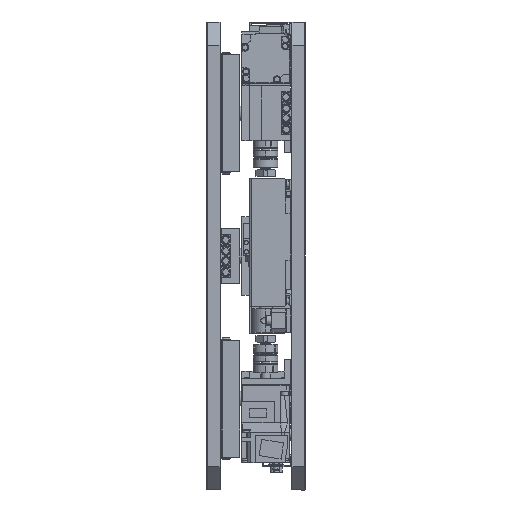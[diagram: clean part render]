
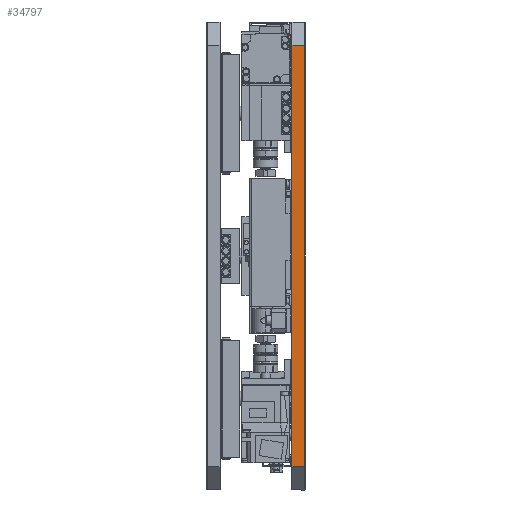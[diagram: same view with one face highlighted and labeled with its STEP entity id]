
A CAD part, left-side view. The second image highlights one B-rep face of the part: STEP entity #34797.
In plain terms, the highlighted planar face has unit normal (-1, 0, 0).
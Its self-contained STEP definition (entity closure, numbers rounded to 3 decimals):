
#3355 = EDGE_CURVE ( 'NONE', #101950, #88042, #51039, .T. ) ;
#6871 = ORIENTED_EDGE ( 'NONE', *, *, #74104, .T. ) ;
#7644 = VECTOR ( 'NONE', #50463, 1000. ) ;
#11614 = EDGE_CURVE ( 'NONE', #51528, #44199, #65723, .T. ) ;
#19537 = VECTOR ( 'NONE', #76028, 1000. ) ;
#21331 = AXIS2_PLACEMENT_3D ( 'NONE', #96385, #44040, #61907 ) ;
#23691 = CARTESIAN_POINT ( 'NONE',  ( -200., -0.5, -180. ) ) ;
#31579 = EDGE_CURVE ( 'NONE', #88042, #51528, #86739, .T. ) ;
#34797 = ADVANCED_FACE ( 'NONE', ( #51222 ), #79747, .F. ) ;
#36694 = CARTESIAN_POINT ( 'NONE',  ( -200., -11.5, -200. ) ) ;
#44040 = DIRECTION ( 'NONE',  ( 1., 0., 0. ) ) ;
#44199 = VERTEX_POINT ( 'NONE', #82968 ) ;
#50463 = DIRECTION ( 'NONE',  ( 0., 0., -1. ) ) ;
#51039 = LINE ( 'NONE', #103312, #19537 ) ;
#51222 = FACE_OUTER_BOUND ( 'NONE', #95233, .T. ) ;
#51528 = VERTEX_POINT ( 'NONE', #94055 ) ;
#61907 = DIRECTION ( 'NONE',  ( 0., 0., -1. ) ) ;
#65723 = LINE ( 'NONE', #94783, #95106 ) ;
#73219 = CARTESIAN_POINT ( 'NONE',  ( -200., -0.5, 180. ) ) ;
#74104 = EDGE_CURVE ( 'NONE', #44199, #101950, #90207, .T. ) ;
#76028 = DIRECTION ( 'NONE',  ( 0., 1., 0. ) ) ;
#76819 = CARTESIAN_POINT ( 'NONE',  ( -200., -11.5, 180. ) ) ;
#78753 = ORIENTED_EDGE ( 'NONE', *, *, #11614, .T. ) ;
#79747 = PLANE ( 'NONE',  #21331 ) ;
#82968 = CARTESIAN_POINT ( 'NONE',  ( -200., -11.5, -180. ) ) ;
#86507 = ORIENTED_EDGE ( 'NONE', *, *, #31579, .T. ) ;
#86739 = LINE ( 'NONE', #23691, #7644 ) ;
#88042 = VERTEX_POINT ( 'NONE', #73219 ) ;
#90207 = LINE ( 'NONE', #36694, #91800 ) ;
#91368 = DIRECTION ( 'NONE',  ( 0., 0., 1. ) ) ;
#91800 = VECTOR ( 'NONE', #91368, 1000. ) ;
#94055 = CARTESIAN_POINT ( 'NONE',  ( -200., -0.5, -180. ) ) ;
#94783 = CARTESIAN_POINT ( 'NONE',  ( -200., 0., -180. ) ) ;
#95106 = VECTOR ( 'NONE', #101921, 1000. ) ;
#95233 = EDGE_LOOP ( 'NONE', ( #102066, #86507, #78753, #6871 ) ) ;
#96385 = CARTESIAN_POINT ( 'NONE',  ( -200., 0., -200. ) ) ;
#101921 = DIRECTION ( 'NONE',  ( 0., -1., 0. ) ) ;
#101950 = VERTEX_POINT ( 'NONE', #76819 ) ;
#102066 = ORIENTED_EDGE ( 'NONE', *, *, #3355, .T. ) ;
#103312 = CARTESIAN_POINT ( 'NONE',  ( -200., 0., 180. ) ) ;
